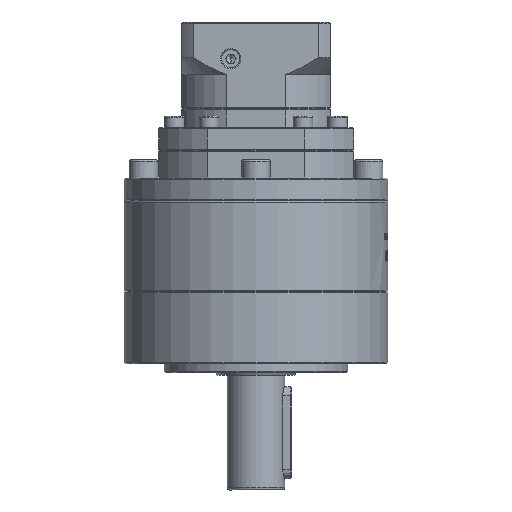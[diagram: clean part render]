
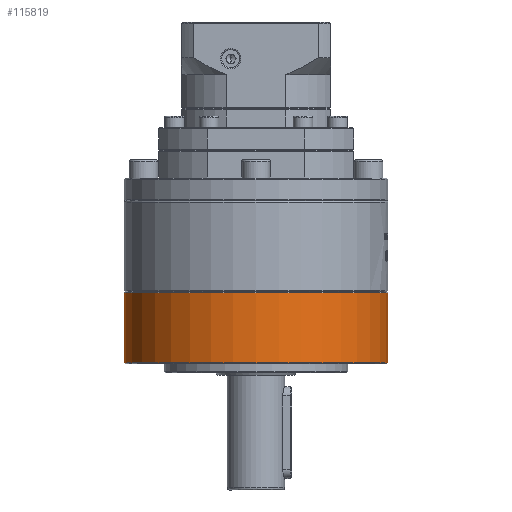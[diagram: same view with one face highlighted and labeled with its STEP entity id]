
A CAD part, left-side view. The second image highlights one B-rep face of the part: STEP entity #115819.
In plain terms, the highlighted cylindrical face has radius 57.5 mm (diameter 115 mm), a partial arc.
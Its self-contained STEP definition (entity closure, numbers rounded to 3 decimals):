
#76 = ORIENTED_EDGE ( 'NONE', *, *, #47881, .F. ) ;
#2636 = ORIENTED_EDGE ( 'NONE', *, *, #3552, .T. ) ;
#3552 = EDGE_CURVE ( 'NONE', #113749, #42440, #35666, .T. ) ;
#11933 = VECTOR ( 'NONE', #38791, 1000. ) ;
#13425 = VERTEX_POINT ( 'NONE', #24983 ) ;
#21797 = AXIS2_PLACEMENT_3D ( 'NONE', #29641, #98536, #39490 ) ;
#24983 = CARTESIAN_POINT ( 'NONE',  ( -62.264, 64.633, -126.744 ) ) ;
#26888 = CARTESIAN_POINT ( 'NONE',  ( -62.264, -50.367, -126.744 ) ) ;
#29641 = CARTESIAN_POINT ( 'NONE',  ( -62.264, 7.133, -126.744 ) ) ;
#30637 = CARTESIAN_POINT ( 'NONE',  ( -62.264, 7.133, -157.244 ) ) ;
#31276 = EDGE_LOOP ( 'NONE', ( #122738, #2636, #87971, #76 ) ) ;
#32226 = EDGE_CURVE ( 'NONE', #42440, #88967, #93412, .T. ) ;
#35666 = CIRCLE ( 'NONE', #119686, 57.5 ) ;
#36252 = CYLINDRICAL_SURFACE ( 'NONE', #79054, 57.5 ) ;
#38144 = LINE ( 'NONE', #125019, #11933 ) ;
#38791 = DIRECTION ( 'NONE',  ( 0., 0., 1. ) ) ;
#39490 = DIRECTION ( 'NONE',  ( 0., 1., 0. ) ) ;
#40472 = DIRECTION ( 'NONE',  ( 0., -1., 0. ) ) ;
#41378 = CARTESIAN_POINT ( 'NONE',  ( -62.264, 7.133, -144.744 ) ) ;
#42440 = VERTEX_POINT ( 'NONE', #109298 ) ;
#47881 = EDGE_CURVE ( 'NONE', #13425, #88967, #59927, .T. ) ;
#48588 = FACE_OUTER_BOUND ( 'NONE', #31276, .T. ) ;
#59927 = CIRCLE ( 'NONE', #21797, 57.5 ) ;
#61016 = VECTOR ( 'NONE', #91113, 1000. ) ;
#61812 = CARTESIAN_POINT ( 'NONE',  ( -62.264, -50.367, -144.744 ) ) ;
#76332 = EDGE_CURVE ( 'NONE', #113749, #13425, #38144, .T. ) ;
#79054 = AXIS2_PLACEMENT_3D ( 'NONE', #41378, #80147, #110377 ) ;
#80147 = DIRECTION ( 'NONE',  ( 0., 0., 1. ) ) ;
#82488 = CARTESIAN_POINT ( 'NONE',  ( -62.264, 64.633, -157.244 ) ) ;
#87971 = ORIENTED_EDGE ( 'NONE', *, *, #32226, .T. ) ;
#88967 = VERTEX_POINT ( 'NONE', #26888 ) ;
#91113 = DIRECTION ( 'NONE',  ( 0., 0., 1. ) ) ;
#93412 = LINE ( 'NONE', #61812, #61016 ) ;
#98536 = DIRECTION ( 'NONE',  ( 0., 0., 1. ) ) ;
#99538 = DIRECTION ( 'NONE',  ( 0., 0., 1. ) ) ;
#109298 = CARTESIAN_POINT ( 'NONE',  ( -62.264, -50.367, -157.244 ) ) ;
#110377 = DIRECTION ( 'NONE',  ( 0., -1., 0. ) ) ;
#113749 = VERTEX_POINT ( 'NONE', #82488 ) ;
#115819 = ADVANCED_FACE ( 'NONE', ( #48588 ), #36252, .T. ) ;
#119686 = AXIS2_PLACEMENT_3D ( 'NONE', #30637, #99538, #40472 ) ;
#122738 = ORIENTED_EDGE ( 'NONE', *, *, #76332, .F. ) ;
#125019 = CARTESIAN_POINT ( 'NONE',  ( -62.264, 64.633, -144.744 ) ) ;
